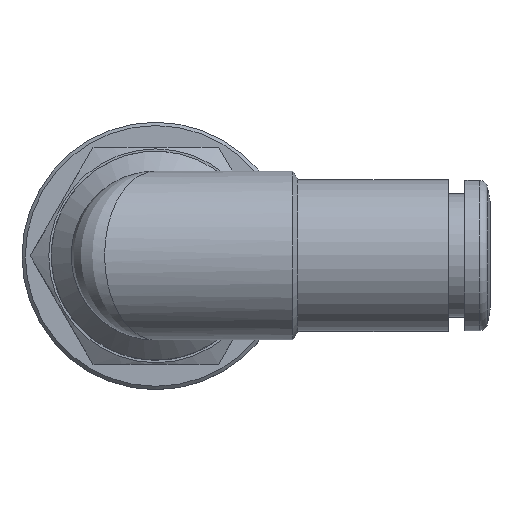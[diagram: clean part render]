
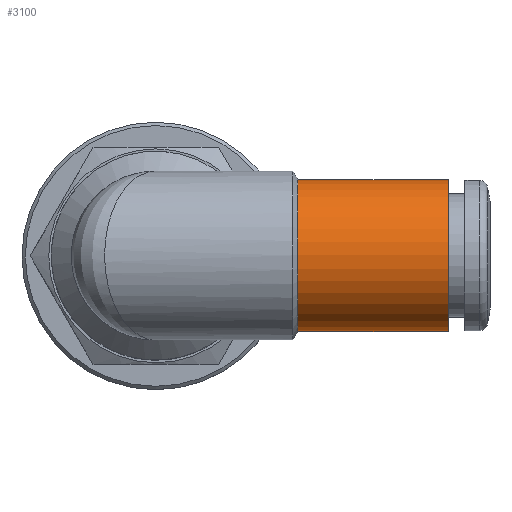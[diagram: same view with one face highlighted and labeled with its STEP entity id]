
A CAD part, top view. The second image highlights one B-rep face of the part: STEP entity #3100.
In plain terms, the highlighted cylindrical face has radius 4.55 mm (diameter 9.1 mm), a full revolution.
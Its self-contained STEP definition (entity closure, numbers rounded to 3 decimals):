
#3100=ADVANCED_FACE('', (#3110,#3120), #3130, .T.);
#8480=AXIS2_PLACEMENT_3D('Ax2Pl3d', #8490, #8500, #8510);
#9440=AXIS2_PLACEMENT_3D('Ax2Pl3d', #9450, #9460, #9470);
#9480=AXIS2_PLACEMENT_3D('Ax2Pl3d', #9490, #9500, #9510);
#8490=CARTESIAN_POINT('HicPkt', (31.672,9.497,
30.038));
#23140=CARTESIAN_POINT('', (31.672,9.497,34.588));
#9450=CARTESIAN_POINT('HicPkt', (22.672,9.497,
30.038));
#23280=CARTESIAN_POINT('', (22.672,9.497,34.588));
#9490=CARTESIAN_POINT('HicPkt', (22.672,9.497,
30.038));
#23880=CIRCLE('Circle', #8480, 4.55);
#23980=CIRCLE('Circle', #9440, 4.55);
#3130=CYLINDRICAL_SURFACE('Zyl', #9480, 4.55);
#8500=DIRECTION('Axis', (-1.,0.,0.))
;
#8510=DIRECTION('RefDirection', (0.,
0.,-1.));
#9460=DIRECTION('Axis', (-1.,0.,0.))
;
#9470=DIRECTION('RefDirection', (0.,
0.,-1.));
#9500=DIRECTION('Axis', (1.,0.,0.));
#9510=DIRECTION('RefDirection', (0.,0.,-1.));
#28440=EDGE_CURVE('', #28450, #28450, #23880, .T.);
#28820=EDGE_CURVE('', #28830, #28830, #23980, .T.);
#32110=EDGE_LOOP('Edge_loop', (#32120));
#32130=EDGE_LOOP('Edge_loop', (#32140));
#3120=FACE_BOUND('', #32130, .T.);
#3110=FACE_OUTER_BOUND('Face_outer_bound', #32110, .T.);
#32120=ORIENTED_EDGE('', *, *, #28440, .T.);
#32140=ORIENTED_EDGE('', *, *, #28820, .F.);
#28450=VERTEX_POINT('', #23140);
#28830=VERTEX_POINT('', #23280);
